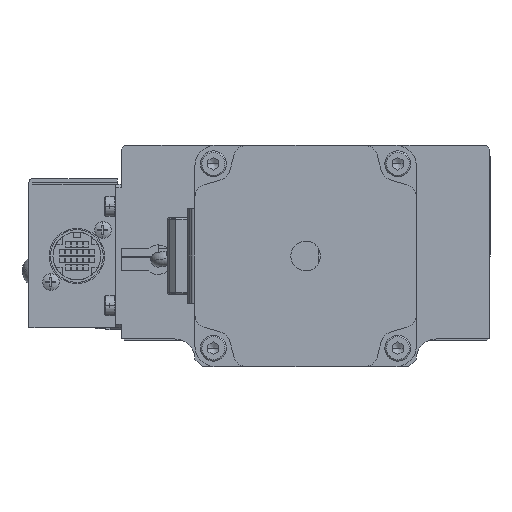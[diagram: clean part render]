
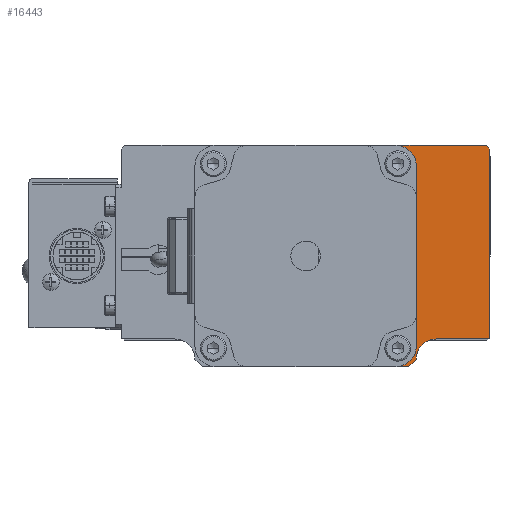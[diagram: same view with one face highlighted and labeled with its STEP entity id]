
A CAD part, left-side view. The second image highlights one B-rep face of the part: STEP entity #16443.
In plain terms, the highlighted planar face has unit normal (-1, 0, 0).
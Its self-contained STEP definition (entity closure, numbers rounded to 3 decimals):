
#1242 = ORIENTED_EDGE ( 'NONE', *, *, #23851, .F. ) ;
#3976 = EDGE_CURVE ( 'NONE', #10596, #21867, #13312, .T. ) ;
#4394 = CARTESIAN_POINT ( 'NONE',  ( 136.23, -195.611, 60. ) ) ;
#4616 = VECTOR ( 'NONE', #29225, 1000. ) ;
#6526 = EDGE_CURVE ( 'NONE', #52553, #42196, #24489, .T. ) ;
#6738 = CARTESIAN_POINT ( 'NONE',  ( 136.23, -184.611, 58. ) ) ;
#7276 = CARTESIAN_POINT ( 'NONE',  ( 136.23, -190.111, 112.5 ) ) ;
#9443 = CARTESIAN_POINT ( 'NONE',  ( 136.23, -184.611, 112.5 ) ) ;
#9481 = CARTESIAN_POINT ( 'NONE',  ( 136.23, -210.111, 117. ) ) ;
#9553 = DIRECTION ( 'NONE',  ( 0., -0.707, -0.707 ) ) ;
#9884 = EDGE_CURVE ( 'NONE', #26426, #61752, #65575, .T. ) ;
#10596 = VERTEX_POINT ( 'NONE', #66792 ) ;
#11367 = CIRCLE ( 'NONE', #44094, 5.5 ) ;
#12972 = CARTESIAN_POINT ( 'NONE',  ( 136.23, -195.611, 65.5 ) ) ;
#13312 = LINE ( 'NONE', #60818, #57241 ) ;
#13862 = CARTESIAN_POINT ( 'NONE',  ( 136.23, -120.111, 87. ) ) ;
#15568 = CARTESIAN_POINT ( 'NONE',  ( 136.23, -209.111, 118. ) ) ;
#16264 = FACE_OUTER_BOUND ( 'NONE', #50817, .T. ) ;
#16443 = ADVANCED_FACE ( 'NONE', ( #16264 ), #70675, .T. ) ;
#17118 = ORIENTED_EDGE ( 'NONE', *, *, #62544, .F. ) ;
#17192 = EDGE_CURVE ( 'NONE', #21867, #24891, #57423, .T. ) ;
#18073 = VERTEX_POINT ( 'NONE', #48196 ) ;
#18389 = AXIS2_PLACEMENT_3D ( 'NONE', #9443, #21463, #49573 ) ;
#18785 = EDGE_CURVE ( 'NONE', #24891, #18073, #62679, .T. ) ;
#20309 = DIRECTION ( 'NONE',  ( 0., -1., 0. ) ) ;
#20348 = DIRECTION ( 'NONE',  ( 0., 0., -1. ) ) ;
#20605 = ORIENTED_EDGE ( 'NONE', *, *, #18785, .F. ) ;
#21463 = DIRECTION ( 'NONE',  ( 1., 0., 0. ) ) ;
#21867 = VERTEX_POINT ( 'NONE', #62853 ) ;
#22244 = EDGE_CURVE ( 'NONE', #26426, #69750, #11367, .T. ) ;
#23851 = EDGE_CURVE ( 'NONE', #18073, #69750, #27227, .T. ) ;
#24460 = AXIS2_PLACEMENT_3D ( 'NONE', #13862, #42933, #70921 ) ;
#24489 = LINE ( 'NONE', #54668, #48759 ) ;
#24891 = VERTEX_POINT ( 'NONE', #38839 ) ;
#26426 = VERTEX_POINT ( 'NONE', #53692 ) ;
#27227 = LINE ( 'NONE', #61886, #45178 ) ;
#27594 = DIRECTION ( 'NONE',  ( 0., 1., 0. ) ) ;
#29225 = DIRECTION ( 'NONE',  ( 0., 0.707, -0.707 ) ) ;
#29964 = CARTESIAN_POINT ( 'NONE',  ( 136.23, -190.111, 60. ) ) ;
#32518 = ORIENTED_EDGE ( 'NONE', *, *, #3976, .F. ) ;
#32773 = DIRECTION ( 'NONE',  ( 0., 0., -1. ) ) ;
#33445 = DIRECTION ( 'NONE',  ( 1., 0., 0. ) ) ;
#37046 = CARTESIAN_POINT ( 'NONE',  ( 136.23, -188.111, 58. ) ) ;
#37059 = CARTESIAN_POINT ( 'NONE',  ( 136.23, -184.611, 63.5 ) ) ;
#38839 = CARTESIAN_POINT ( 'NONE',  ( 136.23, -210.111, 117. ) ) ;
#40066 = LINE ( 'NONE', #37046, #57968 ) ;
#41970 = AXIS2_PLACEMENT_3D ( 'NONE', #37059, #71085, #20309 ) ;
#42196 = VERTEX_POINT ( 'NONE', #67422 ) ;
#42728 = CIRCLE ( 'NONE', #18389, 5.5 ) ;
#42933 = DIRECTION ( 'NONE',  ( -1., 0., 0. ) ) ;
#43222 = EDGE_CURVE ( 'NONE', #10596, #52553, #42728, .T. ) ;
#43264 = DIRECTION ( 'NONE',  ( 0., -1., 0. ) ) ;
#44094 = AXIS2_PLACEMENT_3D ( 'NONE', #4394, #33445, #44264 ) ;
#44264 = DIRECTION ( 'NONE',  ( 0., -1., 0. ) ) ;
#45178 = VECTOR ( 'NONE', #27594, 1000. ) ;
#47233 = ORIENTED_EDGE ( 'NONE', *, *, #61406, .T. ) ;
#47239 = ORIENTED_EDGE ( 'NONE', *, *, #22244, .T. ) ;
#47555 = ORIENTED_EDGE ( 'NONE', *, *, #43222, .T. ) ;
#48196 = CARTESIAN_POINT ( 'NONE',  ( 136.23, -210.111, 65.5 ) ) ;
#48759 = VECTOR ( 'NONE', #20348, 1000. ) ;
#49573 = DIRECTION ( 'NONE',  ( 0., 0., 1. ) ) ;
#50817 = EDGE_LOOP ( 'NONE', ( #32518, #47555, #52953, #47233, #17118, #72667, #47239, #1242, #20605, #68370 ) ) ;
#51316 = CARTESIAN_POINT ( 'NONE',  ( 136.23, -188.111, 58. ) ) ;
#52553 = VERTEX_POINT ( 'NONE', #7276 ) ;
#52953 = ORIENTED_EDGE ( 'NONE', *, *, #6526, .T. ) ;
#53692 = CARTESIAN_POINT ( 'NONE',  ( 136.23, -190.111, 60. ) ) ;
#54668 = CARTESIAN_POINT ( 'NONE',  ( 136.23, -190.111, 112.5 ) ) ;
#55360 = DIRECTION ( 'NONE',  ( 0., 1., 0. ) ) ;
#57241 = VECTOR ( 'NONE', #43264, 1000. ) ;
#57423 = LINE ( 'NONE', #15568, #73499 ) ;
#57968 = VECTOR ( 'NONE', #55360, 1000. ) ;
#59965 = VECTOR ( 'NONE', #32773, 1000. ) ;
#60818 = CARTESIAN_POINT ( 'NONE',  ( 136.23, -111.111, 118. ) ) ;
#61406 = EDGE_CURVE ( 'NONE', #42196, #62296, #67972, .T. ) ;
#61752 = VERTEX_POINT ( 'NONE', #51316 ) ;
#61886 = CARTESIAN_POINT ( 'NONE',  ( 136.23, -210.111, 65.5 ) ) ;
#62296 = VERTEX_POINT ( 'NONE', #6738 ) ;
#62544 = EDGE_CURVE ( 'NONE', #61752, #62296, #40066, .T. ) ;
#62679 = LINE ( 'NONE', #9481, #59965 ) ;
#62853 = CARTESIAN_POINT ( 'NONE',  ( 136.23, -209.111, 118. ) ) ;
#65575 = LINE ( 'NONE', #29964, #4616 ) ;
#66792 = CARTESIAN_POINT ( 'NONE',  ( 136.23, -184.611, 118. ) ) ;
#67422 = CARTESIAN_POINT ( 'NONE',  ( 136.23, -190.111, 63.5 ) ) ;
#67972 = CIRCLE ( 'NONE', #41970, 5.5 ) ;
#68370 = ORIENTED_EDGE ( 'NONE', *, *, #17192, .F. ) ;
#69750 = VERTEX_POINT ( 'NONE', #12972 ) ;
#70675 = PLANE ( 'NONE',  #24460 ) ;
#70921 = DIRECTION ( 'NONE',  ( 0., -1., 0. ) ) ;
#71085 = DIRECTION ( 'NONE',  ( 1., 0., 0. ) ) ;
#72667 = ORIENTED_EDGE ( 'NONE', *, *, #9884, .F. ) ;
#73499 = VECTOR ( 'NONE', #9553, 1000. ) ;
